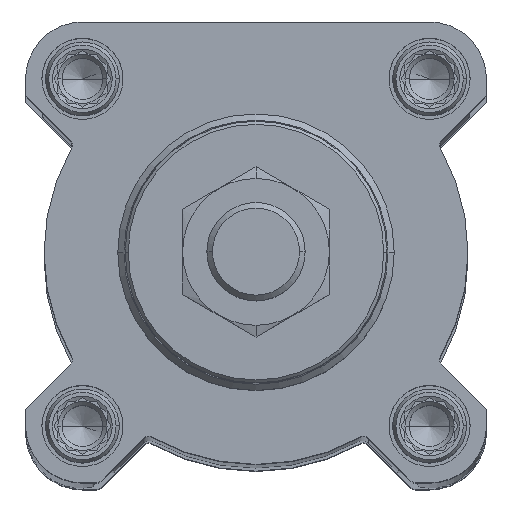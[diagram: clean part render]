
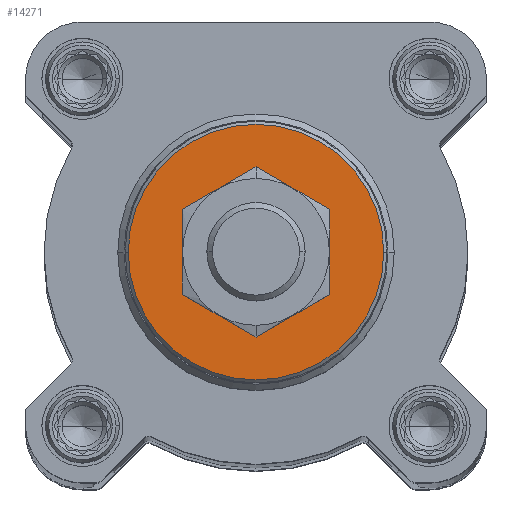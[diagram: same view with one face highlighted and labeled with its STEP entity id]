
A CAD part, top view. The second image highlights one B-rep face of the part: STEP entity #14271.
In plain terms, the highlighted planar face has unit normal (0, 0, 1).
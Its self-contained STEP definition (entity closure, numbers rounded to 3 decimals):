
#161 = DIRECTION ( 'NONE',  ( 0., 0., -1. ) ) ;
#223 = EDGE_LOOP ( 'NONE', ( #17518, #25586 ) ) ;
#1160 = AXIS2_PLACEMENT_3D ( 'NONE', #25472, #11928, #25762 ) ;
#1184 = VERTEX_POINT ( 'NONE', #17086 ) ;
#1819 = CARTESIAN_POINT ( 'NONE',  ( 10., 0., 77. ) ) ;
#1931 = AXIS2_PLACEMENT_3D ( 'NONE', #17896, #26952, #6522 ) ;
#2036 = FACE_BOUND ( 'NONE', #223, .T. ) ;
#4246 = VERTEX_POINT ( 'NONE', #6646 ) ;
#4711 = EDGE_CURVE ( 'NONE', #1184, #4246, #23919, .T. ) ;
#6514 = CARTESIAN_POINT ( 'NONE',  ( 0., 0., 77. ) ) ;
#6522 = DIRECTION ( 'NONE',  ( -1., 0., 0. ) ) ;
#6646 = CARTESIAN_POINT ( 'NONE',  ( 20.799, 0., 77. ) ) ;
#7966 = EDGE_CURVE ( 'NONE', #4246, #1184, #27539, .T. ) ;
#8884 = EDGE_CURVE ( 'NONE', #26524, #20470, #12000, .T. ) ;
#9157 = AXIS2_PLACEMENT_3D ( 'NONE', #16506, #161, #9782 ) ;
#9782 = DIRECTION ( 'NONE',  ( -1., 0., 0. ) ) ;
#10728 = DIRECTION ( 'NONE',  ( 0., -1., 0. ) ) ;
#11008 = DIRECTION ( 'NONE',  ( -1., 0., 0. ) ) ;
#11392 = AXIS2_PLACEMENT_3D ( 'NONE', #26790, #24565, #11008 ) ;
#11928 = DIRECTION ( 'NONE',  ( 0., 0., -1. ) ) ;
#12000 = CIRCLE ( 'NONE', #1931, 10. ) ;
#14047 = AXIS2_PLACEMENT_3D ( 'NONE', #6514, #18038, #10728 ) ;
#14271 = ADVANCED_FACE ( 'NONE', ( #26642, #2036 ), #22066, .F. ) ;
#16506 = CARTESIAN_POINT ( 'NONE',  ( 0., 0., 77. ) ) ;
#16953 = CIRCLE ( 'NONE', #1160, 10. ) ;
#17086 = CARTESIAN_POINT ( 'NONE',  ( -20.799, 0., 77. ) ) ;
#17518 = ORIENTED_EDGE ( 'NONE', *, *, #8884, .T. ) ;
#17676 = EDGE_LOOP ( 'NONE', ( #22192, #20426 ) ) ;
#17896 = CARTESIAN_POINT ( 'NONE',  ( 0., 0., 77. ) ) ;
#18038 = DIRECTION ( 'NONE',  ( 0., 0., -1. ) ) ;
#18212 = EDGE_CURVE ( 'NONE', #20470, #26524, #16953, .T. ) ;
#20426 = ORIENTED_EDGE ( 'NONE', *, *, #7966, .F. ) ;
#20470 = VERTEX_POINT ( 'NONE', #1819 ) ;
#22066 = PLANE ( 'NONE',  #14047 ) ;
#22192 = ORIENTED_EDGE ( 'NONE', *, *, #4711, .F. ) ;
#22657 = CARTESIAN_POINT ( 'NONE',  ( -10., 0., 77. ) ) ;
#23919 = CIRCLE ( 'NONE', #9157, 20.799 ) ;
#24565 = DIRECTION ( 'NONE',  ( 0., 0., -1. ) ) ;
#25472 = CARTESIAN_POINT ( 'NONE',  ( 0., 0., 77. ) ) ;
#25586 = ORIENTED_EDGE ( 'NONE', *, *, #18212, .T. ) ;
#25762 = DIRECTION ( 'NONE',  ( -1., 0., 0. ) ) ;
#26524 = VERTEX_POINT ( 'NONE', #22657 ) ;
#26642 = FACE_OUTER_BOUND ( 'NONE', #17676, .T. ) ;
#26790 = CARTESIAN_POINT ( 'NONE',  ( 0., 0., 77. ) ) ;
#26952 = DIRECTION ( 'NONE',  ( 0., 0., -1. ) ) ;
#27539 = CIRCLE ( 'NONE', #11392, 20.799 ) ;
